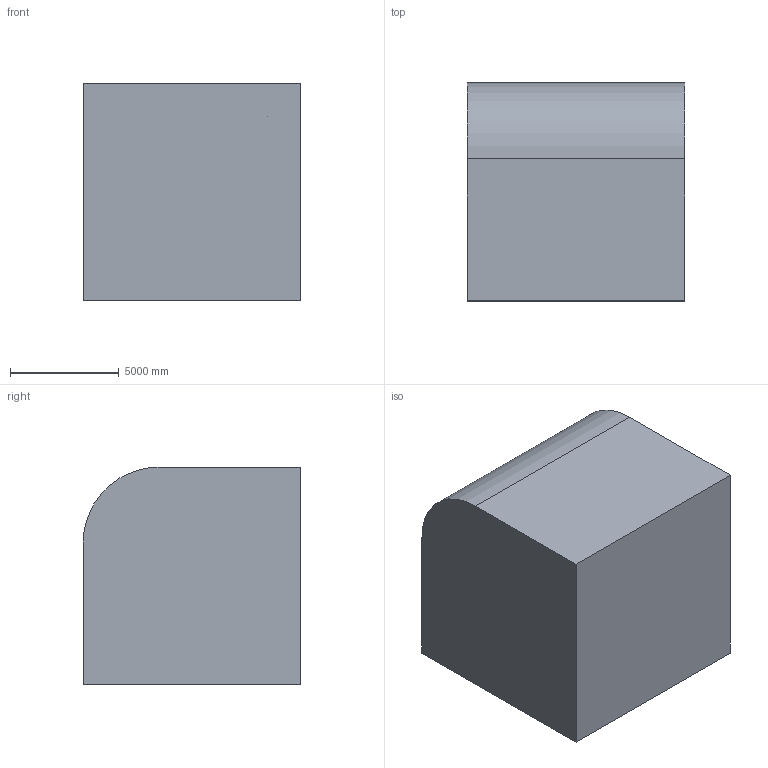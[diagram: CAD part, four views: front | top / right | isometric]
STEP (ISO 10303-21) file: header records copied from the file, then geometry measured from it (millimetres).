
FILE_DESCRIPTION (( 'STEP AP203' ), '1' );
FILE_NAME ('238.STEP', '2022-07-28T14:00:24', ( 'user' ), ( '' ), 'SwSTEP 2.0', 'SolidWorks 2021', '' );
FILE_SCHEMA (( 'CONFIG_CONTROL_DESIGN' ));
Length unit declared in the file: centimetre
Products named in the file (1): 238
Bounding box: 10000 x 10000 x 10000 mm (x, y, z)
Volume: 895371745663.6 mm3; surface area: 711246625.8 mm2
Topology: 1 solids, 1 shells, 20 faces, 45 edges, 30 vertices
Faces by surface type: plane 15, cylinder 5
Entity records: 636 total; most frequent: DIRECTION 97, CARTESIAN_POINT 96, ORIENTED_EDGE 90, EDGE_CURVE 45, LINE 35, VECTOR 35, AXIS2_PLACEMENT_3D 31, VERTEX_POINT 30
